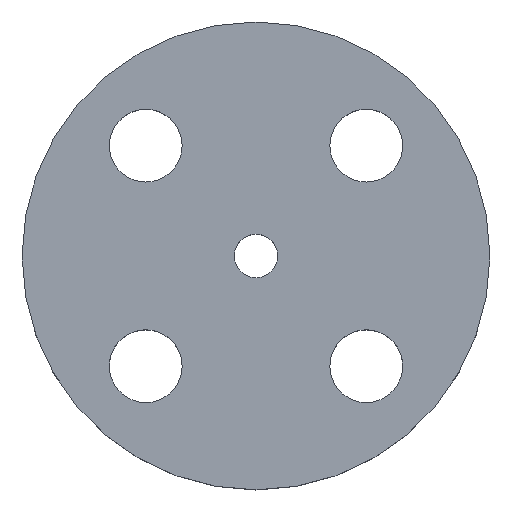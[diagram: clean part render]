
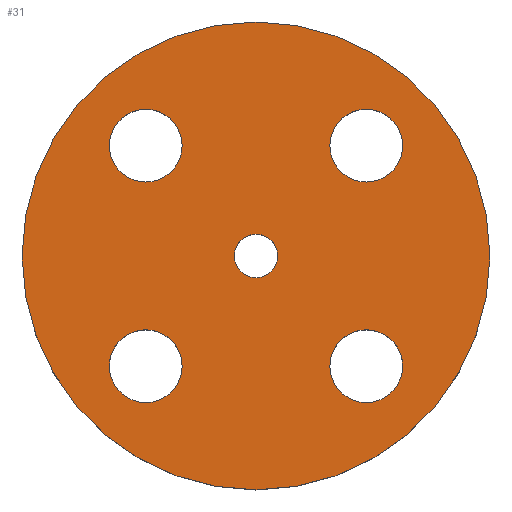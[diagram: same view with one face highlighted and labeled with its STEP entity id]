
A CAD part, top view. The second image highlights one B-rep face of the part: STEP entity #31.
In plain terms, the highlighted planar face has unit normal (0, 0, 1).
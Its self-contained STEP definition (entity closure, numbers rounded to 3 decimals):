
#2 = EDGE_CURVE ( 'NONE', #297, #447, #201, .T. ) ;
#7 = AXIS2_PLACEMENT_3D ( 'NONE', #573, #574, #575 ) ;
#12 = AXIS2_PLACEMENT_3D ( 'NONE', #625, #627, #629 ) ;
#25 = EDGE_CURVE ( 'NONE', #393, #295, #106, .T. ) ;
#31 = ADVANCED_FACE ( 'NONE', ( #480, #481, #482, #483, #484, #485 ), #486, .T. ) ;
#40 = CIRCLE ( 'NONE', #7, 4.188 ) ;
#51 = AXIS2_PLACEMENT_3D ( 'NONE', #561, #562, #563 ) ;
#59 = CIRCLE ( 'NONE', #186, 45. ) ;
#61 = CIRCLE ( 'NONE', #74, 7. ) ;
#67 = CIRCLE ( 'NONE', #608, 7. ) ;
#74 = AXIS2_PLACEMENT_3D ( 'NONE', #255, #257, #258 ) ;
#99 = CIRCLE ( 'NONE', #138, 7. ) ;
#106 = CIRCLE ( 'NONE', #185, 7. ) ;
#120 = AXIS2_PLACEMENT_3D ( 'NONE', #556, #557, #558 ) ;
#127 = CIRCLE ( 'NONE', #216, 4.188 ) ;
#129 = CARTESIAN_POINT ( 'NONE',  ( -14.213, -21.213, 0. ) ) ;
#133 = CARTESIAN_POINT ( 'NONE',  ( -14.213, 21.213, 0. ) ) ;
#134 = CARTESIAN_POINT ( 'NONE',  ( 28.213, 21.213, 0. ) ) ;
#135 = CARTESIAN_POINT ( 'NONE',  ( -45., 0., 0. ) ) ;
#138 = AXIS2_PLACEMENT_3D ( 'NONE', #580, #582, #584 ) ;
#152 = CARTESIAN_POINT ( 'NONE',  ( 14.213, 21.213, 0. ) ) ;
#156 = CARTESIAN_POINT ( 'NONE',  ( 28.213, -21.213, 0. ) ) ;
#168 = CIRCLE ( 'NONE', #120, 7. ) ;
#169 = CARTESIAN_POINT ( 'NONE',  ( -4.188, 0., 0. ) ) ;
#170 = AXIS2_PLACEMENT_3D ( 'NONE', #622, #623, #624 ) ;
#171 = CARTESIAN_POINT ( 'NONE',  ( -28.213, -21.213, 0. ) ) ;
#177 = EDGE_CURVE ( 'NONE', #374, #298, #168, .T. ) ;
#178 = EDGE_CURVE ( 'NONE', #295, #393, #517, .T. ) ;
#181 = CIRCLE ( 'NONE', #12, 45. ) ;
#182 = CIRCLE ( 'NONE', #170, 7. ) ;
#185 = AXIS2_PLACEMENT_3D ( 'NONE', #462, #463, #464 ) ;
#186 = AXIS2_PLACEMENT_3D ( 'NONE', #619, #620, #621 ) ;
#195 = AXIS2_PLACEMENT_3D ( 'NONE', #487, #488, #489 ) ;
#197 = EDGE_CURVE ( 'NONE', #298, #374, #67, .T. ) ;
#199 = AXIS2_PLACEMENT_3D ( 'NONE', #448, #449, #450 ) ;
#201 = CIRCLE ( 'NONE', #199, 7. ) ;
#204 = EDGE_CURVE ( 'NONE', #391, #282, #40, .T. ) ;
#212 = EDGE_CURVE ( 'NONE', #427, #376, #99, .T. ) ;
#216 = AXIS2_PLACEMENT_3D ( 'NONE', #263, #264, #266 ) ;
#225 = CARTESIAN_POINT ( 'NONE',  ( 14.213, -21.213, 0. ) ) ;
#227 = CARTESIAN_POINT ( 'NONE',  ( 45., 0., 0. ) ) ;
#244 = CARTESIAN_POINT ( 'NONE',  ( -28.213, 21.213, 0. ) ) ;
#255 = CARTESIAN_POINT ( 'NONE',  ( -21.213, 21.213, 0. ) ) ;
#257 = DIRECTION ( 'NONE',  ( 0., 0., -1. ) ) ;
#258 = DIRECTION ( 'NONE',  ( -1., 0., 0. ) ) ;
#263 = CARTESIAN_POINT ( 'NONE',  ( 0., 0., 0. ) ) ;
#264 = DIRECTION ( 'NONE',  ( 0., 0., 1. ) ) ;
#266 = DIRECTION ( 'NONE',  ( 1., 0., 0. ) ) ;
#275 = EDGE_CURVE ( 'NONE', #300, #430, #59, .T. ) ;
#276 = EDGE_CURVE ( 'NONE', #376, #427, #182, .T. ) ;
#277 = EDGE_CURVE ( 'NONE', #430, #300, #181, .T. ) ;
#282 = VERTEX_POINT ( 'NONE', #639 ) ;
#287 = ORIENTED_EDGE ( 'NONE', *, *, #277, .T. ) ;
#289 = ORIENTED_EDGE ( 'NONE', *, *, #275, .T. ) ;
#295 = VERTEX_POINT ( 'NONE', #129 ) ;
#297 = VERTEX_POINT ( 'NONE', #133 ) ;
#298 = VERTEX_POINT ( 'NONE', #134 ) ;
#300 = VERTEX_POINT ( 'NONE', #135 ) ;
#346 = ORIENTED_EDGE ( 'NONE', *, *, #276, .T. ) ;
#347 = ORIENTED_EDGE ( 'NONE', *, *, #212, .T. ) ;
#348 = ORIENTED_EDGE ( 'NONE', *, *, #178, .T. ) ;
#349 = ORIENTED_EDGE ( 'NONE', *, *, #25, .T. ) ;
#350 = ORIENTED_EDGE ( 'NONE', *, *, #2, .T. ) ;
#351 = ORIENTED_EDGE ( 'NONE', *, *, #536, .T. ) ;
#352 = ORIENTED_EDGE ( 'NONE', *, *, #197, .T. ) ;
#355 = ORIENTED_EDGE ( 'NONE', *, *, #177, .T. ) ;
#356 = ORIENTED_EDGE ( 'NONE', *, *, #559, .F. ) ;
#357 = ORIENTED_EDGE ( 'NONE', *, *, #204, .F. ) ;
#370 = EDGE_LOOP ( 'NONE', ( #346, #347 ) ) ;
#374 = VERTEX_POINT ( 'NONE', #152 ) ;
#376 = VERTEX_POINT ( 'NONE', #156 ) ;
#377 = EDGE_LOOP ( 'NONE', ( #352, #355 ) ) ;
#383 = EDGE_LOOP ( 'NONE', ( #350, #351 ) ) ;
#391 = VERTEX_POINT ( 'NONE', #169 ) ;
#393 = VERTEX_POINT ( 'NONE', #171 ) ;
#421 = EDGE_LOOP ( 'NONE', ( #356, #357 ) ) ;
#427 = VERTEX_POINT ( 'NONE', #225 ) ;
#430 = VERTEX_POINT ( 'NONE', #227 ) ;
#435 = EDGE_LOOP ( 'NONE', ( #287, #289 ) ) ;
#445 = EDGE_LOOP ( 'NONE', ( #348, #349 ) ) ;
#447 = VERTEX_POINT ( 'NONE', #244 ) ;
#448 = CARTESIAN_POINT ( 'NONE',  ( -21.213, 21.213, 0. ) ) ;
#449 = DIRECTION ( 'NONE',  ( 0., 0., -1. ) ) ;
#450 = DIRECTION ( 'NONE',  ( -1., 0., 0. ) ) ;
#462 = CARTESIAN_POINT ( 'NONE',  ( -21.213, -21.213, 0. ) ) ;
#463 = DIRECTION ( 'NONE',  ( 0., 0., -1. ) ) ;
#464 = DIRECTION ( 'NONE',  ( -1., 0., 0. ) ) ;
#480 = FACE_BOUND ( 'NONE', #370, .T. ) ;
#481 = FACE_BOUND ( 'NONE', #445, .T. ) ;
#482 = FACE_BOUND ( 'NONE', #383, .T. ) ;
#483 = FACE_BOUND ( 'NONE', #377, .T. ) ;
#484 = FACE_BOUND ( 'NONE', #421, .T. ) ;
#485 = FACE_OUTER_BOUND ( 'NONE', #435, .T. ) ;
#486 = PLANE ( 'NONE',  #195 ) ;
#487 = CARTESIAN_POINT ( 'NONE',  ( 0., 0., 0. ) ) ;
#488 = DIRECTION ( 'NONE',  ( 0., 0., 1. ) ) ;
#489 = DIRECTION ( 'NONE',  ( 1., 0., 0. ) ) ;
#517 = CIRCLE ( 'NONE', #51, 7. ) ;
#536 = EDGE_CURVE ( 'NONE', #447, #297, #61, .T. ) ;
#556 = CARTESIAN_POINT ( 'NONE',  ( 21.213, 21.213, 0. ) ) ;
#557 = DIRECTION ( 'NONE',  ( 0., 0., -1. ) ) ;
#558 = DIRECTION ( 'NONE',  ( -1., 0., 0. ) ) ;
#559 = EDGE_CURVE ( 'NONE', #282, #391, #127, .T. ) ;
#561 = CARTESIAN_POINT ( 'NONE',  ( -21.213, -21.213, 0. ) ) ;
#562 = DIRECTION ( 'NONE',  ( 0., 0., -1. ) ) ;
#563 = DIRECTION ( 'NONE',  ( -1., 0., 0. ) ) ;
#567 = CARTESIAN_POINT ( 'NONE',  ( 21.213, 21.213, 0. ) ) ;
#568 = DIRECTION ( 'NONE',  ( 0., 0., -1. ) ) ;
#569 = DIRECTION ( 'NONE',  ( -1., 0., 0. ) ) ;
#573 = CARTESIAN_POINT ( 'NONE',  ( 0., 0., 0. ) ) ;
#574 = DIRECTION ( 'NONE',  ( 0., 0., 1. ) ) ;
#575 = DIRECTION ( 'NONE',  ( 1., 0., 0. ) ) ;
#580 = CARTESIAN_POINT ( 'NONE',  ( 21.213, -21.213, 0. ) ) ;
#582 = DIRECTION ( 'NONE',  ( 0., 0., -1. ) ) ;
#584 = DIRECTION ( 'NONE',  ( -1., 0., 0. ) ) ;
#608 = AXIS2_PLACEMENT_3D ( 'NONE', #567, #568, #569 ) ;
#619 = CARTESIAN_POINT ( 'NONE',  ( 0., 0., 0. ) ) ;
#620 = DIRECTION ( 'NONE',  ( 0., 0., 1. ) ) ;
#621 = DIRECTION ( 'NONE',  ( 1., 0., 0. ) ) ;
#622 = CARTESIAN_POINT ( 'NONE',  ( 21.213, -21.213, 0. ) ) ;
#623 = DIRECTION ( 'NONE',  ( 0., 0., -1. ) ) ;
#624 = DIRECTION ( 'NONE',  ( -1., 0., 0. ) ) ;
#625 = CARTESIAN_POINT ( 'NONE',  ( 0., 0., 0. ) ) ;
#627 = DIRECTION ( 'NONE',  ( 0., 0., 1. ) ) ;
#629 = DIRECTION ( 'NONE',  ( 1., 0., 0. ) ) ;
#639 = CARTESIAN_POINT ( 'NONE',  ( 4.188, 0., 0. ) ) ;
